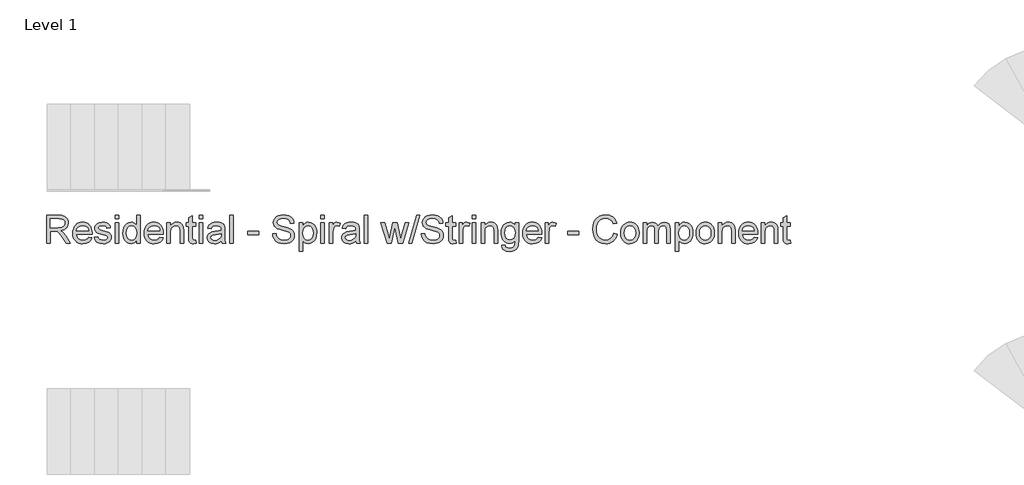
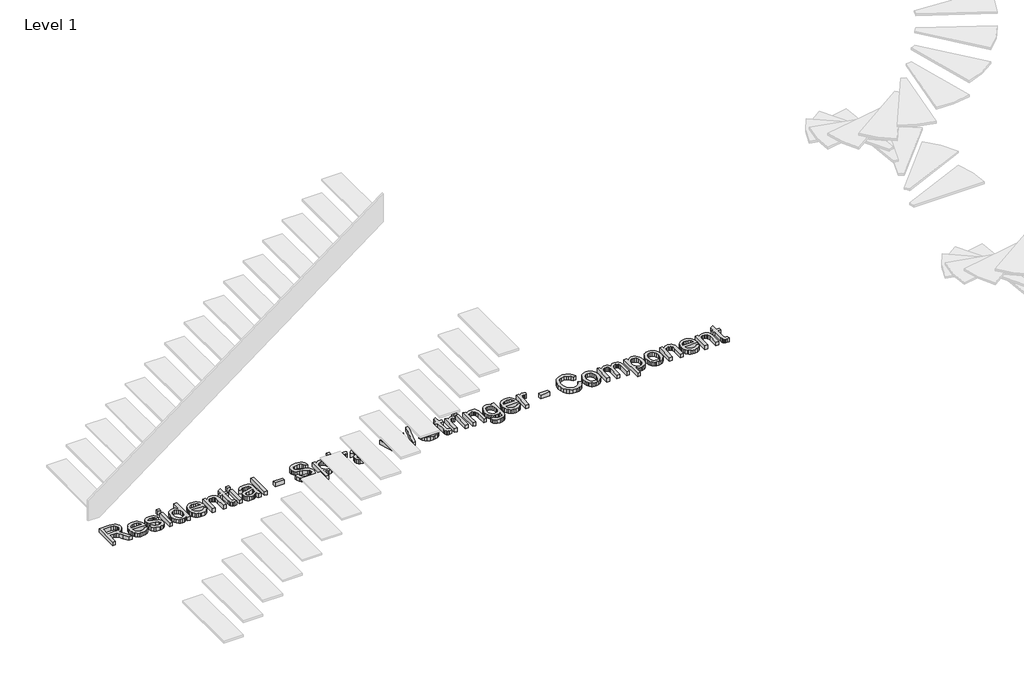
# One storey, part 4 of 15: 1 proxy.
"""IFC4 building model written with IfcOpenShell, lengths in millimetres."""

from ifc_helpers import new_model, si_unit, origin, origin_with_axes, place, context, project, spatial, polyline, outline, extrude, element, save

model = new_model("IFC4")

# Units and contexts
model_context = context("Model", 3, world=origin())
ifc_project = project(units=[si_unit("LENGTHUNIT", "METRE", prefix="MILLI")], contexts=[model_context])

# Site, building, storey
site = spatial("IfcSite", under=ifc_project)
building = spatial("IfcBuilding", under=site)
storey = spatial("IfcBuildingStorey", under=building, Name="Level 1", Elevation=0.0)

# Proxy
placement = place(None, origin())
element("IfcBuildingElementProxy", 1, Name="12\" Arial", ObjectType="12\" Arial", at=placement, inside=storey, context=model_context, shape_type="SweptSolid", body=[
    extrude(outline(polyline([(-27238.310174, -14907.1232123), (-27238.310174, -14607.012443), (-27108.9899817, -14607.012443), (-27074.2328904, -14609.0365055), (-27048.9458471, -14615.108693), (-27030.4636837, -14626.3188854), (-27016.1212317, -14643.7569623), (-27006.9167846, -14665.380544), (-27003.8486356, -14689.1472507), (-27008.9316885, -14718.7113854), (-27024.1808471, -14743.219943), (-27035.7321993, -14753.2074551), (-27050.0540442, -14761.1892219), (-27087.0092125, -14771.13552), (-27065.6878664, -14787.1814815), (-27035.2811356, -14825.7943661), (-26985.238251, -14907.1232123), (-27028.8334433, -14907.1232123), (-27067.8859433, -14844.9176354), (-27096.0945971, -14803.7403277), (-27115.913924, -14784.2873469), (-27133.7549817, -14777.1435969), (-27155.5159433, -14775.8247507), (-27200.7963279, -14775.8247507), (-27200.7963279, -14907.1232123), (-27238.310174, -14907.1232123)]), holes=[polyline([(-27200.7963279, -14738.3109046), (-27116.8297894, -14738.3109046), (-27092.7150539, -14736.9828998), (-27074.003924, -14732.9988854), (-27059.9179144, -14726.0932604), (-27049.6785394, -14716.0004238), (-27043.4414962, -14703.7919382), (-27041.3624817, -14690.5393661), (-27045.3281789, -14672.2403757), (-27057.2252702, -14657.494943), (-27077.6948615, -14647.7684527), (-27107.3780587, -14644.5262892), (-27200.7963279, -14644.5262892), (-27200.7963279, -14738.3109046)])]), origin_with_axes(), (0.0, 0.0, 1.0), 50.8),
    extrude(outline(polyline([(-26788.5836356, -14841.4739815), (-26751.8024817, -14846.1632123), (-26765.0550539, -14873.8772988), (-26786.2023856, -14894.5941738), (-26814.7682269, -14907.5078757), (-26850.2763279, -14911.812443), (-26873.5530466, -14909.955526), (-26894.2928183, -14904.3847748), (-26912.4956428, -14895.1001894), (-26928.1615202, -14882.10177), (-26940.7592486, -14865.7512832), (-26949.757626, -14846.4104959), (-26955.1566524, -14824.0794082), (-26956.9563279, -14798.75802), (-26955.1383351, -14772.5780079), (-26949.6843567, -14749.5027796), (-26940.5943928, -14729.5323349), (-26927.8684433, -14712.6666738), (-26912.2437798, -14699.2675632), (-26894.457674, -14689.69677), (-26874.510126, -14683.954294), (-26852.4011356, -14682.0401354), (-26831.0042305, -14683.9497147), (-26811.6542846, -14689.6784527), (-26794.3512978, -14699.2263493), (-26779.0952702, -14712.5934046), (-26766.6417906, -14729.422431), (-26757.7464481, -14749.3562411), (-26752.4092426, -14772.3948349), (-26750.630174, -14798.5382123), (-26750.8499817, -14808.6493661), (-26919.4424817, -14808.6493661), (-26912.9489962, -14836.7297988), (-26897.8646933, -14857.3734046), (-26876.0945731, -14870.0672988), (-26849.5436356, -14874.2985969), (-26829.5777702, -14872.338645), (-26812.7624817, -14866.4587892), (-26799.0977702, -14856.2926834), (-26788.5836356, -14841.4739815)]), holes=[polyline([(-26919.4424817, -14771.13552), (-26788.1440202, -14771.13552), (-26793.2179144, -14751.316193), (-26803.1642125, -14737.1385969), (-26825.0350779, -14723.9501354), (-26852.547674, -14719.5539815), (-26877.8347173, -14723.0617459), (-26898.743924, -14733.5850392), (-26913.2787077, -14749.9881882), (-26919.4424817, -14771.13552)])]), origin_with_axes(), (0.0, 0.0, 1.0), 50.8),
    extrude(outline(polyline([(-26727.1840202, -14841.4739815), (-26689.670174, -14836.7847507), (-26683.7536837, -14852.8307123), (-26672.3053664, -14864.6270584), (-26655.2519529, -14871.8807123), (-26632.520174, -14874.2985969), (-26610.0631548, -14872.0822027), (-26594.2736356, -14865.43302), (-26584.9318087, -14855.7981161), (-26581.8178664, -14844.6245584), (-26584.950126, -14835.0629238), (-26594.3469048, -14827.7726354), (-26632.9597894, -14817.0753277), (-26689.4503664, -14798.7213854), (-26703.747025, -14789.4986209), (-26714.1054625, -14777.2901354), (-26720.3974577, -14762.8744142), (-26722.4947894, -14747.029943), (-26720.8095971, -14732.4951594), (-26715.7540202, -14719.0777315), (-26707.7859914, -14707.3088613), (-26697.3634433, -14697.7197507), (-26673.5143087, -14686.6194623), (-26641.2392125, -14682.0401354), (-26616.8222414, -14683.8810248), (-26595.5924817, -14689.403693), (-26578.520751, -14698.0677796), (-26566.5778664, -14709.3329238), (-26558.6647894, -14724.0325632), (-26553.6824817, -14743.0001354), (-26591.1963279, -14747.6893661), (-26595.9313519, -14735.8838613), (-26605.3006548, -14726.9908084), (-26619.3958231, -14721.4131882), (-26638.3084433, -14719.5539815), (-26659.8495971, -14721.3307604), (-26674.2103664, -14726.6610969), (-26682.288299, -14734.3543661), (-26684.9809433, -14743.219943), (-26680.5115202, -14754.1370584), (-26666.5170971, -14762.4164815), (-26634.2053664, -14770.4028277), (-26579.1435394, -14788.0607123), (-26564.5995971, -14796.5049911), (-26553.5725779, -14808.0632123), (-26546.6211596, -14822.7720104), (-26544.3040202, -14840.66802), (-26547.0241404, -14859.1685007), (-26555.184501, -14876.569943), (-26568.4737077, -14891.5077075), (-26586.5803664, -14902.6171546), (-26608.4512317, -14909.5136209), (-26633.0330587, -14911.812443), (-26670.858299, -14907.3796546), (-26698.4624817, -14894.0812892), (-26716.8896933, -14872.0638854), (-26727.1840202, -14841.4739815)])), origin_with_axes(), (0.0, 0.0, 1.0), 50.8),
    extrude(outline(polyline([(-26502.1009433, -14907.1232123), (-26502.1009433, -14686.7293661), (-26464.5870971, -14686.7293661), (-26464.5870971, -14907.1232123), (-26502.1009433, -14907.1232123)])), origin_with_axes(), (0.0, 0.0, 1.0), 50.8),
    extrude(outline(polyline([(-26502.1009433, -14644.5262892), (-26502.1009433, -14607.012443), (-26464.5870971, -14607.012443), (-26464.5870971, -14644.5262892), (-26502.1009433, -14644.5262892)])), origin_with_axes(), (0.0, 0.0, 1.0), 50.8),
    extrude(outline(polyline([(-26272.3286356, -14907.1232123), (-26272.3286356, -14871.7341738), (-26283.5525659, -14889.2684166), (-26297.1485875, -14901.7928757), (-26313.1167005, -14909.3075512), (-26331.4569048, -14911.812443), (-26355.7090202, -14908.1856161), (-26377.9095971, -14897.3051354), (-26396.7031548, -14879.931169), (-26410.7342125, -14856.8238854), (-26419.4715683, -14828.9174671), (-26422.3840202, -14797.1460969), (-26419.7005346, -14765.7685488), (-26411.6500779, -14737.4316738), (-26398.2418087, -14713.747395), (-26379.4848856, -14696.3276354), (-26356.7989, -14685.6120104), (-26331.6034433, -14682.0401354), (-26313.249501, -14684.5953998), (-26297.0203664, -14692.261193), (-26283.2640683, -14704.0117459), (-26272.3286356, -14718.8212892), (-26272.3286356, -14607.012443), (-26234.8147894, -14607.012443), (-26234.8147894, -14907.1232123), (-26272.3286356, -14907.1232123)]), holes=[polyline([(-26384.870174, -14796.9995584), (-26380.638876, -14830.9323709), (-26367.9449817, -14855.0654238), (-26349.4994529, -14869.4903036), (-26328.013251, -14874.2985969), (-26306.5362077, -14869.7101113), (-26288.5577702, -14855.9446546), (-26276.3859192, -14832.7457844), (-26272.3286356, -14799.8570584), (-26276.4591885, -14763.9001834), (-26288.8508471, -14738.9703277), (-26307.2872173, -14724.408068), (-26329.5519048, -14719.5539815), (-26351.2579144, -14724.2157363), (-26369.0440202, -14738.2010007), (-26380.9136356, -14762.2241498), (-26384.870174, -14796.9995584)])]), origin_with_axes(), (0.0, 0.0, 1.0), 50.8),
    extrude(outline(polyline([(-26024.2390202, -14841.4739815), (-25987.4578664, -14846.1632123), (-26000.7104385, -14873.8772988), (-26021.8577702, -14894.5941738), (-26050.4236115, -14907.5078757), (-26085.9317125, -14911.812443), (-26109.2084313, -14909.955526), (-26129.9482029, -14904.3847748), (-26148.1510274, -14895.1001894), (-26163.8169048, -14882.10177), (-26176.4146332, -14865.7512832), (-26185.4130106, -14846.4104959), (-26190.812037, -14824.0794082), (-26192.6117125, -14798.75802), (-26190.7937197, -14772.5780079), (-26185.3397414, -14749.5027796), (-26176.2497774, -14729.5323349), (-26163.5238279, -14712.6666738), (-26147.8991644, -14699.2675632), (-26130.1130587, -14689.69677), (-26110.1655106, -14683.954294), (-26088.0565202, -14682.0401354), (-26066.6596152, -14683.9497147), (-26047.3096692, -14689.6784527), (-26030.0066825, -14699.2263493), (-26014.7506548, -14712.5934046), (-26002.2971753, -14729.422431), (-25993.4018327, -14749.3562411), (-25988.0646272, -14772.3948349), (-25986.2855587, -14798.5382123), (-25986.5053664, -14808.6493661), (-26155.0978664, -14808.6493661), (-26148.6043808, -14836.7297988), (-26133.5200779, -14857.3734046), (-26111.7499577, -14870.0672988), (-26085.1990202, -14874.2985969), (-26065.2331548, -14872.338645), (-26048.4178664, -14866.4587892), (-26034.7531548, -14856.2926834), (-26024.2390202, -14841.4739815)]), holes=[polyline([(-26155.0978664, -14771.13552), (-26023.7994048, -14771.13552), (-26028.873299, -14751.316193), (-26038.8195971, -14737.1385969), (-26060.6904625, -14723.9501354), (-26088.2030587, -14719.5539815), (-26113.4901019, -14723.0617459), (-26134.3993087, -14733.5850392), (-26148.9340923, -14749.9881882), (-26155.0978664, -14771.13552)])]), origin_with_axes(), (0.0, 0.0, 1.0), 50.8),
    extrude(outline(polyline([(-25948.7717125, -14907.1232123), (-25948.7717125, -14686.7293661), (-25911.2578664, -14686.7293661), (-25911.2578664, -14717.502443), (-25898.2251019, -14701.9876834), (-25882.5729625, -14690.9057123), (-25864.3014481, -14684.2565296), (-25843.4105587, -14682.0401354), (-25824.9192365, -14683.8260729), (-25807.9848856, -14689.1838854), (-25793.8622414, -14697.4449911), (-25783.8060394, -14707.9408084), (-25772.5592125, -14735.5266738), (-25770.5809433, -14771.794943), (-25770.5809433, -14907.1232123), (-25808.0947894, -14907.1232123), (-25808.0947894, -14776.85052), (-25812.417674, -14743.6595584), (-25818.398275, -14733.7773709), (-25827.6943087, -14726.1115777), (-25839.6097173, -14721.1933805), (-25853.4484433, -14719.5539815), (-25875.4200539, -14723.2357604), (-25894.149501, -14734.2810969), (-25901.6344108, -14743.2977916), (-25906.980775, -14755.6207604), (-25911.2578664, -14790.18552), (-25911.2578664, -14907.1232123), (-25948.7717125, -14907.1232123)])), origin_with_axes(), (0.0, 0.0, 1.0), 50.8),
    extrude(outline(polyline([(-25639.2824817, -14875.8372507), (-25634.593251, -14908.2222507), (-25662.6553664, -14911.812443), (-25680.6612798, -14910.2554719), (-25694.0878664, -14905.5845584), (-25703.5762317, -14898.3858565), (-25709.7674817, -14889.24552), (-25713.174501, -14873.5475873), (-25714.310174, -14846.6760969), (-25714.310174, -14724.2432123), (-25742.4455587, -14724.2432123), (-25742.4455587, -14686.7293661), (-25714.310174, -14686.7293661), (-25714.310174, -14633.1695584), (-25676.7963279, -14611.11552), (-25676.7963279, -14686.7293661), (-25639.2824817, -14686.7293661), (-25639.2824817, -14724.2432123), (-25676.7963279, -14724.2432123), (-25676.7963279, -14845.5770584), (-25674.8180587, -14864.9201354), (-25668.407001, -14871.7708084), (-25655.6215202, -14874.2985969), (-25639.2824817, -14875.8372507)])), origin_with_axes(), (0.0, 0.0, 1.0), 50.8),
    extrude(outline(polyline([(-25601.7686356, -14907.1232123), (-25601.7686356, -14686.7293661), (-25564.2547894, -14686.7293661), (-25564.2547894, -14907.1232123), (-25601.7686356, -14907.1232123)])), origin_with_axes(), (0.0, 0.0, 1.0), 50.8),
    extrude(outline(polyline([(-25601.7686356, -14644.5262892), (-25601.7686356, -14607.012443), (-25564.2547894, -14607.012443), (-25564.2547894, -14644.5262892), (-25601.7686356, -14644.5262892)])), origin_with_axes(), (0.0, 0.0, 1.0), 50.8),
    extrude(outline(polyline([(-25367.3070971, -14878.9878277), (-25385.2305827, -14894.3560488), (-25403.6852702, -14904.4122507), (-25423.0924577, -14909.962395), (-25443.8734433, -14911.812443), (-25475.2235154, -14907.3613373), (-25498.3491164, -14894.00802), (-25512.6091404, -14873.7307604), (-25517.3624817, -14848.5078277), (-25515.5673856, -14832.9564334), (-25510.1820971, -14818.8337892), (-25501.8751981, -14806.7443661), (-25491.3152702, -14797.2926354), (-25465.048251, -14784.9834046), (-25432.5899817, -14779.3416738), (-25394.2335394, -14773.4068661), (-25367.5269048, -14766.4462892), (-25367.3070971, -14758.0935969), (-25369.8898375, -14741.3515777), (-25377.6380587, -14730.3978277), (-25394.9662317, -14722.264943), (-25419.1084433, -14719.5539815), (-25441.4555587, -14721.3582363), (-25457.0619048, -14726.7710007), (-25467.7042606, -14736.7814094), (-25475.1594048, -14752.3785969), (-25512.673251, -14747.6893661), (-25506.1614481, -14727.1739815), (-25496.4441164, -14711.0547507), (-25482.614549, -14698.7272027), (-25463.7660394, -14689.5868661), (-25440.7137077, -14683.926818), (-25414.272674, -14682.0401354), (-25388.9123615, -14683.7070104), (-25368.8091164, -14688.7076354), (-25353.6515442, -14696.2268902), (-25343.128251, -14705.4496546), (-25336.1493567, -14716.8521786), (-25331.6249817, -14730.9107123), (-25329.793251, -14763.7353277), (-25329.793251, -14810.4078277), (-25327.888251, -14875.5808084), (-25320.4147894, -14907.1232123), (-25357.9286356, -14907.1232123), (-25367.3070971, -14878.9878277)]), holes=[polyline([(-25367.3070971, -14803.9601354), (-25427.8274817, -14815.4634046), (-25460.1025779, -14821.5447507), (-25474.7197894, -14831.4360969), (-25479.8486356, -14845.8701354), (-25477.0552462, -14857.0253757), (-25468.6750779, -14866.1657123), (-25454.8913039, -14872.2653757), (-25435.8870971, -14874.2985969), (-25415.7380587, -14872.0547267), (-25397.9336356, -14865.3231161), (-25383.4995971, -14855.404294), (-25373.4617125, -14843.5987892), (-25369.0106067, -14831.4360969), (-25367.5269048, -14814.5841738), (-25367.3070971, -14803.9601354)])]), origin_with_axes(), (0.0, 0.0, 1.0), 50.8),
    extrude(outline(polyline([(-25278.2117125, -14907.1232123), (-25278.2117125, -14607.012443), (-25240.6978664, -14607.012443), (-25240.6978664, -14907.1232123), (-25278.2117125, -14907.1232123)])), origin_with_axes(), (0.0, 0.0, 1.0), 50.8),
    extrude(outline(polyline([(-25085.953251, -14818.0278277), (-25085.953251, -14780.5139815), (-24968.7224817, -14780.5139815), (-24968.7224817, -14818.0278277), (-25085.953251, -14818.0278277)])), origin_with_axes(), (0.0, 0.0, 1.0), 50.8),
    extrude(outline(polyline([(-24818.6670971, -14803.9601354), (-24781.153251, -14803.9601354), (-24776.8486837, -14824.7777555), (-24769.0638279, -14841.5106161), (-24756.9194529, -14854.7906642), (-24739.5363279, -14865.2498469), (-24718.288251, -14872.0364094), (-24694.5490202, -14874.2985969), (-24673.6489721, -14872.5859286), (-24655.3499817, -14867.4479238), (-24640.5221212, -14859.3150392), (-24630.0354625, -14848.6177315), (-24623.7984192, -14836.3359767), (-24621.7194048, -14823.4497507), (-24623.276376, -14810.8932363), (-24627.9472894, -14800.0402315), (-24637.4356548, -14790.7808325), (-24653.4449817, -14783.0051354), (-24708.0671933, -14768.6810007), (-24743.9233231, -14759.201794), (-24766.865751, -14750.18052), (-24785.5402462, -14737.559895), (-24798.774501, -14722.264943), (-24806.6601019, -14704.6253757), (-24809.2886356, -14684.9709046), (-24806.0373135, -14662.999294), (-24796.2833471, -14642.5113854), (-24780.2831789, -14625.1465777), (-24758.293251, -14612.54427), (-24731.8980106, -14604.8784767), (-24702.6819048, -14602.3232123), (-24671.0295971, -14604.9975392), (-24643.3338279, -14613.02052), (-24620.5837317, -14626.2272988), (-24603.7684433, -14644.45302), (-24593.1260875, -14666.5620104), (-24588.8947894, -14691.4185969), (-24626.4086356, -14691.4185969), (-24633.2959433, -14669.0348469), (-24647.6567125, -14652.8789815), (-24670.0954144, -14643.0975392), (-24701.2165202, -14639.8370584), (-24733.0703183, -14643.0609046), (-24754.9228664, -14652.732443), (-24767.5618087, -14666.9649911), (-24771.7747894, -14683.8718661), (-24768.7890683, -14698.2875873), (-24759.8319048, -14709.882443), (-24738.6570971, -14720.2500392), (-24698.5788279, -14730.837443), (-24657.2183471, -14740.893645), (-24632.1969048, -14749.6676354), (-24610.8114481, -14763.277395), (-24595.892001, -14780.0743661), (-24587.1271692, -14799.8753757), (-24584.2055587, -14822.4972507), (-24587.5667846, -14845.6228517), (-24597.6504625, -14867.3746546), (-24614.0444529, -14886.094943), (-24636.3366164, -14900.1260007), (-24663.1439962, -14908.8908325), (-24693.0836356, -14911.812443), (-24729.8373135, -14908.6618661), (-24760.0883471, -14899.2101354), (-24784.1847654, -14883.4206161), (-24802.4745971, -14861.2566738), (-24814.2159914, -14834.2569623), (-24818.6670971, -14803.9601354)])), origin_with_axes(), (0.0, 0.0, 1.0), 50.8),
    extrude(outline(polyline([(-24532.6240202, -14991.5293661), (-24532.6240202, -14686.7293661), (-24495.110174, -14686.7293661), (-24495.110174, -14723.51052), (-24482.8742125, -14705.3672267), (-24469.1728664, -14692.4077315), (-24453.200174, -14684.6320344), (-24434.150174, -14682.0401354), (-24408.7807029, -14685.6669623), (-24386.5984433, -14696.547443), (-24368.5375779, -14714.0221546), (-24355.5322894, -14737.4316738), (-24347.6741644, -14765.0724911), (-24345.0547894, -14795.2410969), (-24348.0130346, -14827.3238613), (-24356.8877702, -14856.0179238), (-24371.3950779, -14879.8670584), (-24391.2510394, -14897.4150392), (-24414.3766404, -14908.2130921), (-24438.6928664, -14911.812443), (-24455.9386115, -14909.4037171), (-24471.3343087, -14902.1775392), (-24484.5136115, -14891.2695825), (-24495.110174, -14877.81552), (-24495.110174, -14991.5293661), (-24532.6240202, -14991.5293661)]), holes=[polyline([(-24495.110174, -14798.6847507), (-24491.0528904, -14832.3153277), (-24478.8810394, -14855.8347507), (-24460.9209192, -14869.6826354), (-24439.4988279, -14874.2985969), (-24417.7287077, -14869.5177796), (-24399.3106548, -14855.1753277), (-24386.7541404, -14830.7949911), (-24382.5686356, -14795.90052), (-24386.6533952, -14762.4531161), (-24398.907674, -14738.6039815), (-24416.8403183, -14724.3164815), (-24437.960174, -14719.5539815), (-24459.1624577, -14724.6187171), (-24477.782001, -14739.8129238), (-24490.7781308, -14764.6603517), (-24495.110174, -14798.6847507)])]), origin_with_axes(), (0.0, 0.0, 1.0), 50.8),
    extrude(outline(polyline([(-24302.8517125, -14907.1232123), (-24302.8517125, -14686.7293661), (-24265.3378664, -14686.7293661), (-24265.3378664, -14907.1232123), (-24302.8517125, -14907.1232123)])), origin_with_axes(), (0.0, 0.0, 1.0), 50.8),
    extrude(outline(polyline([(-24302.8517125, -14644.5262892), (-24302.8517125, -14607.012443), (-24265.3378664, -14607.012443), (-24265.3378664, -14644.5262892), (-24302.8517125, -14644.5262892)])), origin_with_axes(), (0.0, 0.0, 1.0), 50.8),
    extrude(outline(polyline([(-24209.0670971, -14907.1232123), (-24209.0670971, -14686.7293661), (-24176.2424817, -14686.7293661), (-24176.2424817, -14719.3341738), (-24164.116424, -14700.4307123), (-24152.9428664, -14689.2937892), (-24141.732674, -14683.8535488), (-24129.4967125, -14682.0401354), (-24110.8130587, -14684.93427), (-24091.8363279, -14693.6166738), (-24104.3653664, -14727.2472507), (-24117.5538279, -14721.4772988), (-24130.7422894, -14719.5539815), (-24141.9433231, -14721.4040296), (-24151.9537317, -14726.9541738), (-24160.0408231, -14735.7831161), (-24165.4719048, -14747.4695584), (-24170.0329144, -14768.4245584), (-24171.553251, -14791.2845584), (-24171.553251, -14907.1232123), (-24209.0670971, -14907.1232123)])), origin_with_axes(), (0.0, 0.0, 1.0), 50.8),
    extrude(outline(polyline([(-23927.713251, -14878.9878277), (-23945.6367365, -14894.3560488), (-23964.091424, -14904.4122507), (-23983.4986115, -14909.962395), (-24004.2795971, -14911.812443), (-24035.6296692, -14907.3613373), (-24058.7552702, -14894.00802), (-24073.0152942, -14873.7307604), (-24077.7686356, -14848.5078277), (-24075.9735394, -14832.9564334), (-24070.588251, -14818.8337892), (-24062.2813519, -14806.7443661), (-24051.721424, -14797.2926354), (-24025.4544048, -14784.9834046), (-23992.9961356, -14779.3416738), (-23954.6396933, -14773.4068661), (-23927.9330587, -14766.4462892), (-23927.713251, -14758.0935969), (-23930.2959914, -14741.3515777), (-23938.0442125, -14730.3978277), (-23955.3723856, -14722.264943), (-23979.5145971, -14719.5539815), (-24001.8617125, -14721.3582363), (-24017.4680587, -14726.7710007), (-24028.1104144, -14736.7814094), (-24035.5655587, -14752.3785969), (-24073.0794048, -14747.6893661), (-24066.5676019, -14727.1739815), (-24056.8502702, -14711.0547507), (-24043.0207029, -14698.7272027), (-24024.1721933, -14689.5868661), (-24001.1198615, -14683.926818), (-23974.6788279, -14682.0401354), (-23949.3185154, -14683.7070104), (-23929.2152702, -14688.7076354), (-23914.0576981, -14696.2268902), (-23903.5344048, -14705.4496546), (-23896.5555106, -14716.8521786), (-23892.0311356, -14730.9107123), (-23890.1994048, -14763.7353277), (-23890.1994048, -14810.4078277), (-23888.2944048, -14875.5808084), (-23880.8209433, -14907.1232123), (-23918.3347894, -14907.1232123), (-23927.713251, -14878.9878277)]), holes=[polyline([(-23927.713251, -14803.9601354), (-23988.2336356, -14815.4634046), (-24020.5087317, -14821.5447507), (-24035.1259433, -14831.4360969), (-24040.2547894, -14845.8701354), (-24037.4614, -14857.0253757), (-24029.0812317, -14866.1657123), (-24015.2974577, -14872.2653757), (-23996.293251, -14874.2985969), (-23976.1442125, -14872.0547267), (-23958.3397894, -14865.3231161), (-23943.905751, -14855.404294), (-23933.8678664, -14843.5987892), (-23929.4167606, -14831.4360969), (-23927.9330587, -14814.5841738), (-23927.713251, -14803.9601354)])]), origin_with_axes(), (0.0, 0.0, 1.0), 50.8),
    extrude(outline(polyline([(-23838.6178664, -14907.1232123), (-23838.6178664, -14607.012443), (-23801.1040202, -14607.012443), (-23801.1040202, -14907.1232123), (-23838.6178664, -14907.1232123)])), origin_with_axes(), (0.0, 0.0, 1.0), 50.8),
    extrude(outline(polyline([(-23591.0411356, -14907.1232123), (-23658.0824817, -14686.7293661), (-23619.103251, -14686.7293661), (-23581.0765202, -14815.3168661), (-23569.7197894, -14861.2566738), (-23560.4145971, -14817.0020584), (-23530.1544048, -14686.7293661), (-23485.460174, -14686.7293661), (-23455.3465202, -14816.6357123), (-23447.0670971, -14856.7139815), (-23435.1974817, -14814.4376354), (-23397.0974817, -14686.7293661), (-23357.9717125, -14686.7293661), (-23425.5259433, -14907.1232123), (-23470.8795971, -14907.1232123), (-23499.6744048, -14777.8762892), (-23508.0270971, -14737.5782123), (-23545.1745971, -14907.1232123), (-23591.0411356, -14907.1232123)])), origin_with_axes(), (0.0, 0.0, 1.0), 50.8),
    extrude(outline(polyline([(-23360.3163279, -14907.1232123), (-23275.910174, -14607.012443), (-23242.0597894, -14607.012443), (-23326.4659433, -14907.1232123), (-23360.3163279, -14907.1232123)])), origin_with_axes(), (0.0, 0.0, 1.0), 50.8),
    extrude(outline(polyline([(-23224.3286356, -14803.9601354), (-23186.8147894, -14803.9601354), (-23182.5102221, -14824.7777555), (-23174.7253664, -14841.5106161), (-23162.5809914, -14854.7906642), (-23145.1978664, -14865.2498469), (-23123.9497894, -14872.0364094), (-23100.2105587, -14874.2985969), (-23079.3105106, -14872.5859286), (-23061.0115202, -14867.4479238), (-23046.1836596, -14859.3150392), (-23035.697001, -14848.6177315), (-23029.4599577, -14836.3359767), (-23027.3809433, -14823.4497507), (-23028.9379144, -14810.8932363), (-23033.6088279, -14800.0402315), (-23043.0971933, -14790.7808325), (-23059.1065202, -14783.0051354), (-23113.7287317, -14768.6810007), (-23149.5848615, -14759.201794), (-23172.5272894, -14750.18052), (-23191.2017846, -14737.559895), (-23204.4360394, -14722.264943), (-23212.3216404, -14704.6253757), (-23214.950174, -14684.9709046), (-23211.6988519, -14662.999294), (-23201.9448856, -14642.5113854), (-23185.9447173, -14625.1465777), (-23163.9547894, -14612.54427), (-23137.559549, -14604.8784767), (-23108.3434433, -14602.3232123), (-23076.6911356, -14604.9975392), (-23048.9953664, -14613.02052), (-23026.2452702, -14626.2272988), (-23009.4299817, -14644.45302), (-22998.787626, -14666.5620104), (-22994.5563279, -14691.4185969), (-23032.070174, -14691.4185969), (-23038.9574817, -14669.0348469), (-23053.318251, -14652.8789815), (-23075.7569529, -14643.0975392), (-23106.8780587, -14639.8370584), (-23138.7318567, -14643.0609046), (-23160.5844048, -14652.732443), (-23173.2233471, -14666.9649911), (-23177.4363279, -14683.8718661), (-23174.4506067, -14698.2875873), (-23165.4934433, -14709.882443), (-23144.3186356, -14720.2500392), (-23104.2403664, -14730.837443), (-23062.8798856, -14740.893645), (-23037.8584433, -14749.6676354), (-23016.4729865, -14763.277395), (-23001.5535394, -14780.0743661), (-22992.7887077, -14799.8753757), (-22989.8670971, -14822.4972507), (-22993.2283231, -14845.6228517), (-23003.312001, -14867.3746546), (-23019.7059914, -14886.094943), (-23041.9981548, -14900.1260007), (-23068.8055346, -14908.8908325), (-23098.745174, -14911.812443), (-23135.4988519, -14908.6618661), (-23165.7498856, -14899.2101354), (-23189.8463039, -14883.4206161), (-23208.1361356, -14861.2566738), (-23219.8775298, -14834.2569623), (-23224.3286356, -14803.9601354)])), origin_with_axes(), (0.0, 0.0, 1.0), 50.8),
    extrude(outline(polyline([(-22858.5686356, -14875.8372507), (-22853.8794048, -14908.2222507), (-22881.9415202, -14911.812443), (-22899.9474337, -14910.2554719), (-22913.3740202, -14905.5845584), (-22922.8623856, -14898.3858565), (-22929.0536356, -14889.24552), (-22932.4606548, -14873.5475873), (-22933.5963279, -14846.6760969), (-22933.5963279, -14724.2432123), (-22961.7317125, -14724.2432123), (-22961.7317125, -14686.7293661), (-22933.5963279, -14686.7293661), (-22933.5963279, -14633.1695584), (-22896.0824817, -14611.11552), (-22896.0824817, -14686.7293661), (-22858.5686356, -14686.7293661), (-22858.5686356, -14724.2432123), (-22896.0824817, -14724.2432123), (-22896.0824817, -14845.5770584), (-22894.1042125, -14864.9201354), (-22887.6931548, -14871.7708084), (-22874.907674, -14874.2985969), (-22858.5686356, -14875.8372507)])), origin_with_axes(), (0.0, 0.0, 1.0), 50.8),
    extrude(outline(polyline([(-22821.0547894, -14907.1232123), (-22821.0547894, -14686.7293661), (-22788.230174, -14686.7293661), (-22788.230174, -14719.3341738), (-22776.1041164, -14700.4307123), (-22764.9305587, -14689.2937892), (-22753.7203664, -14683.8535488), (-22741.4844048, -14682.0401354), (-22722.800751, -14684.93427), (-22703.8240202, -14693.6166738), (-22716.3530587, -14727.2472507), (-22729.5415202, -14721.4772988), (-22742.7299817, -14719.5539815), (-22753.9310154, -14721.4040296), (-22763.941424, -14726.9541738), (-22772.0285154, -14735.7831161), (-22777.4595971, -14747.4695584), (-22782.0206067, -14768.4245584), (-22783.5409433, -14791.2845584), (-22783.5409433, -14907.1232123), (-22821.0547894, -14907.1232123)])), origin_with_axes(), (0.0, 0.0, 1.0), 50.8),
    extrude(outline(polyline([(-22680.3778664, -14907.1232123), (-22680.3778664, -14686.7293661), (-22642.8640202, -14686.7293661), (-22642.8640202, -14907.1232123), (-22680.3778664, -14907.1232123)])), origin_with_axes(), (0.0, 0.0, 1.0), 50.8),
    extrude(outline(polyline([(-22680.3778664, -14644.5262892), (-22680.3778664, -14607.012443), (-22642.8640202, -14607.012443), (-22642.8640202, -14644.5262892), (-22680.3778664, -14644.5262892)])), origin_with_axes(), (0.0, 0.0, 1.0), 50.8),
    extrude(outline(polyline([(-22586.593251, -14907.1232123), (-22586.593251, -14686.7293661), (-22549.0794048, -14686.7293661), (-22549.0794048, -14717.502443), (-22536.0466404, -14701.9876834), (-22520.394501, -14690.9057123), (-22502.1229865, -14684.2565296), (-22481.2320971, -14682.0401354), (-22462.740775, -14683.8260729), (-22445.806424, -14689.1838854), (-22431.6837798, -14697.4449911), (-22421.6275779, -14707.9408084), (-22410.380751, -14735.5266738), (-22408.4024817, -14771.794943), (-22408.4024817, -14907.1232123), (-22445.9163279, -14907.1232123), (-22445.9163279, -14776.85052), (-22450.2392125, -14743.6595584), (-22456.2198135, -14733.7773709), (-22465.5158471, -14726.1115777), (-22477.4312558, -14721.1933805), (-22491.2699817, -14719.5539815), (-22513.2415923, -14723.2357604), (-22531.9710394, -14734.2810969), (-22539.4559493, -14743.2977916), (-22544.8023135, -14755.6207604), (-22549.0794048, -14790.18552), (-22549.0794048, -14907.1232123), (-22586.593251, -14907.1232123)])), origin_with_axes(), (0.0, 0.0, 1.0), 50.8),
    extrude(outline(polyline([(-22366.1994048, -14925.8801354), (-22328.6855587, -14930.5693661), (-22324.5458471, -14942.292443), (-22316.5228664, -14950.3520584), (-22300.7516644, -14956.6165777), (-22280.1080587, -14958.7047507), (-22258.0906548, -14956.341818), (-22241.7149817, -14949.25302), (-22230.358251, -14937.8962892), (-22223.397674, -14922.7295584), (-22220.833251, -14878.9878277), (-22233.3164962, -14891.2970584), (-22247.2468087, -14900.0893661), (-22262.6241885, -14905.3647507), (-22279.4486356, -14907.1232123), (-22300.0166825, -14905.0762531), (-22318.1256308, -14898.9353757), (-22333.7754805, -14888.7005801), (-22346.9662317, -14874.3718661), (-22357.4322834, -14857.1810729), (-22364.9080346, -14838.3600392), (-22369.3934853, -14817.9087652), (-22370.8886356, -14795.8272507), (-22368.20515, -14765.5395825), (-22360.1546933, -14737.6881161), (-22347.0211837, -14714.0862652), (-22329.0885394, -14696.547443), (-22306.9703904, -14685.6669623), (-22281.2803664, -14682.0401354), (-22263.7369649, -14684.0916738), (-22247.8146452, -14690.2462892), (-22233.5134072, -14700.5039815), (-22220.833251, -14714.8647507), (-22220.833251, -14686.7293661), (-22183.3194048, -14686.7293661), (-22183.3194048, -14877.0095584), (-22185.8838279, -14920.9436209), (-22193.5770971, -14949.8758084), (-22206.8296692, -14969.0631882), (-22226.072001, -14983.7628277), (-22250.8827942, -14993.1046546), (-22280.840751, -14996.2185969), (-22315.7443808, -14991.8316017), (-22343.229501, -14978.6706161), (-22353.5810695, -14968.7907183), (-22360.8599096, -14956.6990055), (-22365.0660214, -14942.3954779), (-22366.1994048, -14925.8801354)]), holes=[polyline([(-22333.3747894, -14793.2628277), (-22329.3724577, -14827.6718902), (-22317.3654625, -14851.328693), (-22299.3137558, -14865.0391979), (-22277.1772894, -14869.6093661), (-22255.2056789, -14865.0666738), (-22237.0623856, -14851.4385969), (-22224.8905346, -14828.0840296), (-22220.833251, -14794.3618661), (-22225.0095971, -14761.8394863), (-22237.5386356, -14738.4208084), (-22255.9475298, -14724.2706882), (-22277.7634433, -14719.5539815), (-22299.1855346, -14724.197419), (-22317.1456548, -14738.1277315), (-22329.3175058, -14761.1983805), (-22333.3747894, -14793.2628277)])]), origin_with_axes(), (0.0, 0.0, 1.0), 50.8),
    extrude(outline(polyline([(-21972.7436356, -14841.4739815), (-21935.9624817, -14846.1632123), (-21949.2150539, -14873.8772988), (-21970.3623856, -14894.5941738), (-21998.9282269, -14907.5078757), (-22034.4363279, -14911.812443), (-22057.7130466, -14909.955526), (-22078.4528183, -14904.3847748), (-22096.6556428, -14895.1001894), (-22112.3215202, -14882.10177), (-22124.9192486, -14865.7512832), (-22133.917626, -14846.4104959), (-22139.3166524, -14824.0794082), (-22141.1163279, -14798.75802), (-22139.2983351, -14772.5780079), (-22133.8443567, -14749.5027796), (-22124.7543928, -14729.5323349), (-22112.0284433, -14712.6666738), (-22096.4037798, -14699.2675632), (-22078.617674, -14689.69677), (-22058.670126, -14683.954294), (-22036.5611356, -14682.0401354), (-22015.1642305, -14683.9497147), (-21995.8142846, -14689.6784527), (-21978.5112978, -14699.2263493), (-21963.2552702, -14712.5934046), (-21950.8017906, -14729.422431), (-21941.9064481, -14749.3562411), (-21936.5692426, -14772.3948349), (-21934.790174, -14798.5382123), (-21935.0099817, -14808.6493661), (-22103.6024817, -14808.6493661), (-22097.1089962, -14836.7297988), (-22082.0246933, -14857.3734046), (-22060.2545731, -14870.0672988), (-22033.7036356, -14874.2985969), (-22013.7377702, -14872.338645), (-21996.9224817, -14866.4587892), (-21983.2577702, -14856.2926834), (-21972.7436356, -14841.4739815)]), holes=[polyline([(-22103.6024817, -14771.13552), (-21972.3040202, -14771.13552), (-21977.3779144, -14751.316193), (-21987.3242125, -14737.1385969), (-22009.1950779, -14723.9501354), (-22036.707674, -14719.5539815), (-22061.9947173, -14723.0617459), (-22082.903924, -14733.5850392), (-22097.4387077, -14749.9881882), (-22103.6024817, -14771.13552)])]), origin_with_axes(), (0.0, 0.0, 1.0), 50.8),
    extrude(outline(polyline([(-21897.2763279, -14907.1232123), (-21897.2763279, -14686.7293661), (-21864.4517125, -14686.7293661), (-21864.4517125, -14719.3341738), (-21852.3256548, -14700.4307123), (-21841.1520971, -14689.2937892), (-21829.9419048, -14683.8535488), (-21817.7059433, -14682.0401354), (-21799.0222894, -14684.93427), (-21780.0455587, -14693.6166738), (-21792.5745971, -14727.2472507), (-21805.7630587, -14721.4772988), (-21818.9515202, -14719.5539815), (-21830.1525539, -14721.4040296), (-21840.1629625, -14726.9541738), (-21848.2500539, -14735.7831161), (-21853.6811356, -14747.4695584), (-21858.2421452, -14768.4245584), (-21859.7624817, -14791.2845584), (-21859.7624817, -14907.1232123), (-21897.2763279, -14907.1232123)])), origin_with_axes(), (0.0, 0.0, 1.0), 50.8),
    extrude(outline(polyline([(-21658.1255587, -14818.0278277), (-21658.1255587, -14780.5139815), (-21540.8947894, -14780.5139815), (-21540.8947894, -14818.0278277), (-21658.1255587, -14818.0278277)])), origin_with_axes(), (0.0, 0.0, 1.0), 50.8),
    extrude(outline(polyline([(-21165.7563279, -14800.4432123), (-21128.2424817, -14810.1147507), (-21135.6655707, -14833.4441317), (-21145.5523375, -14853.8290055), (-21157.9027822, -14871.2693721), (-21172.7169048, -14885.7652315), (-21189.6604144, -14897.1608866), (-21208.3990202, -14905.3006402), (-21228.9327221, -14910.1844923), (-21251.2615202, -14911.812443), (-21294.7742846, -14906.8850873), (-21329.3298856, -14892.10302), (-21355.8167125, -14867.9791257), (-21375.1231548, -14835.0262892), (-21386.9103423, -14796.2851834), (-21390.8394048, -14754.7964815), (-21386.3974577, -14711.0364334), (-21373.0716164, -14673.2478277), (-21351.5579385, -14642.6304479), (-21322.5524817, -14620.3840777), (-21288.1525779, -14606.8384286), (-21250.4555587, -14602.3232123), (-21209.3240442, -14608.1664334), (-21191.4303243, -14615.4704599), (-21175.3179625, -14625.6960969), (-21161.2525599, -14638.5731642), (-21149.4997173, -14653.8314815), (-21132.9317125, -14691.4918661), (-21170.4455587, -14700.4307123), (-21183.4508471, -14673.0738132), (-21201.2186356, -14654.3077315), (-21223.9687317, -14643.4547267), (-21251.9209433, -14639.8370584), (-21284.1410875, -14643.8485488), (-21310.6095971, -14655.88302), (-21330.694525, -14674.6765777), (-21343.763924, -14698.9653277), (-21350.93515, -14726.4229719), (-21353.3255587, -14754.7232123), (-21350.4955346, -14789.3795584), (-21342.0054625, -14819.3466738), (-21327.5347894, -14843.4797267), (-21306.7629625, -14860.6338854), (-21281.8605827, -14870.882419), (-21254.998251, -14874.2985969), (-21223.6848135, -14869.6460007), (-21197.5918087, -14855.6882123), (-21177.8915442, -14832.57177), (-21165.7563279, -14800.4432123)])), origin_with_axes(), (0.0, 0.0, 1.0), 50.8),
    extrude(outline(polyline([(-21090.7286356, -14796.9262892), (-21088.6999938, -14768.3833445), (-21082.6140683, -14743.7877796), (-21072.4708591, -14723.1395945), (-21058.2703664, -14706.4387892), (-21043.9737077, -14695.7643781), (-21028.1933471, -14688.1397988), (-21010.9292846, -14683.5650512), (-20992.1815202, -14682.0401354), (-20971.4852522, -14683.8970524), (-20952.7718327, -14689.4678036), (-20936.0412618, -14698.752389), (-20921.2935394, -14711.7508084), (-20909.2567786, -14728.0234466), (-20900.6590923, -14747.1306882), (-20895.5004805, -14769.0725332), (-20893.7809433, -14793.8489815), (-20896.8216164, -14831.7474911), (-20905.9436356, -14860.5972507), (-20920.8814, -14882.2025152), (-20941.3693087, -14898.3675392), (-20965.7038519, -14908.4512171), (-20992.1815202, -14911.812443), (-21013.1800238, -14909.962395), (-21032.0674577, -14904.4122507), (-21048.8438219, -14895.1620104), (-21063.5091164, -14882.2116738), (-21075.417656, -14865.7810488), (-21083.9237558, -14846.089943), (-21089.0274156, -14823.1383565), (-21090.7286356, -14796.9262892)]), holes=[polyline([(-21053.2147894, -14796.85302), (-21048.8735875, -14830.8041498), (-21035.8499817, -14854.9921546), (-21016.2504625, -14869.4719863), (-20992.1815202, -14874.2985969), (-20968.2224817, -14869.4445104), (-20948.6595971, -14854.8822507), (-20935.6359914, -14830.373693), (-20931.2947894, -14795.6807123), (-20935.6634673, -14762.7187171), (-20948.769501, -14738.8604238), (-20968.3598615, -14724.3805921), (-20992.1815202, -14719.5539815), (-21016.2504625, -14724.3622748), (-21035.8499817, -14738.7871546), (-21048.8735875, -14762.9202075), (-21053.2147894, -14796.85302)])]), origin_with_axes(), (0.0, 0.0, 1.0), 50.8),
    extrude(outline(polyline([(-20851.5778664, -14907.1232123), (-20851.5778664, -14686.7293661), (-20814.0640202, -14686.7293661), (-20814.0640202, -14722.9976354), (-20802.7805587, -14706.338044), (-20788.273251, -14693.2869623), (-20771.0366644, -14684.8518421), (-20751.5653664, -14682.0401354), (-20730.7019529, -14684.906794), (-20713.978251, -14693.50677), (-20701.4858471, -14707.2722267), (-20693.3163279, -14725.6353277), (-20679.6424577, -14706.562431), (-20664.0452702, -14692.9389334), (-20646.5247654, -14684.7648349), (-20627.0809433, -14682.0401354), (-20598.8814481, -14686.573669), (-20578.0271933, -14700.17427), (-20565.1409673, -14723.2082844), (-20560.8455587, -14756.0420584), (-20560.8455587, -14907.1232123), (-20598.3594048, -14907.1232123), (-20598.3594048, -14772.1612892), (-20601.8396933, -14740.838693), (-20606.7304144, -14732.2020825), (-20614.442001, -14725.41552), (-20624.3608231, -14721.0193661), (-20635.873251, -14719.5539815), (-20656.1963039, -14723.3090296), (-20672.7643087, -14734.5741738), (-20683.7821692, -14754.1187411), (-20687.4547894, -14782.7120584), (-20687.4547894, -14907.1232123), (-20724.9686356, -14907.1232123), (-20724.9686356, -14767.984943), (-20727.1392365, -14746.7735007), (-20733.6510394, -14731.6434046), (-20745.1085154, -14722.5763373), (-20762.1161356, -14719.5539815), (-20776.5684914, -14721.5688854), (-20789.885174, -14727.6135969), (-20800.8755587, -14737.5415777), (-20808.3490202, -14751.2062892), (-20812.6352702, -14770.1647027), (-20814.0640202, -14795.9737892), (-20814.0640202, -14907.1232123), (-20851.5778664, -14907.1232123)])), origin_with_axes(), (0.0, 0.0, 1.0), 50.8),
    extrude(outline(polyline([(-20504.5747894, -14991.5293661), (-20504.5747894, -14686.7293661), (-20467.0609433, -14686.7293661), (-20467.0609433, -14723.51052), (-20454.8249817, -14705.3672267), (-20441.1236356, -14692.4077315), (-20425.1509433, -14684.6320344), (-20406.1009433, -14682.0401354), (-20380.7314721, -14685.6669623), (-20358.5492125, -14696.547443), (-20340.4883471, -14714.0221546), (-20327.4830587, -14737.4316738), (-20319.6249337, -14765.0724911), (-20317.0055587, -14795.2410969), (-20319.9638039, -14827.3238613), (-20328.8385394, -14856.0179238), (-20343.3458471, -14879.8670584), (-20363.2018087, -14897.4150392), (-20386.3274096, -14908.2130921), (-20410.6436356, -14911.812443), (-20427.8893808, -14909.4037171), (-20443.2850779, -14902.1775392), (-20456.4643808, -14891.2695825), (-20467.0609433, -14877.81552), (-20467.0609433, -14991.5293661), (-20504.5747894, -14991.5293661)]), holes=[polyline([(-20467.0609433, -14798.6847507), (-20463.0036596, -14832.3153277), (-20450.8318087, -14855.8347507), (-20432.8716885, -14869.6826354), (-20411.4495971, -14874.2985969), (-20389.6794769, -14869.5177796), (-20371.261424, -14855.1753277), (-20358.7049096, -14830.7949911), (-20354.5194048, -14795.90052), (-20358.6041644, -14762.4531161), (-20370.8584433, -14738.6039815), (-20388.7910875, -14724.3164815), (-20409.9109433, -14719.5539815), (-20431.1132269, -14724.6187171), (-20449.7327702, -14739.8129238), (-20462.7289, -14764.6603517), (-20467.0609433, -14798.6847507)])]), origin_with_axes(), (0.0, 0.0, 1.0), 50.8),
    extrude(outline(polyline([(-20284.1809433, -14796.9262892), (-20282.1523015, -14768.3833445), (-20276.066376, -14743.7877796), (-20265.9231668, -14723.1395945), (-20251.722674, -14706.4387892), (-20237.4260154, -14695.7643781), (-20221.6456548, -14688.1397988), (-20204.3815923, -14683.5650512), (-20185.6338279, -14682.0401354), (-20164.9375599, -14683.8970524), (-20146.2241404, -14689.4678036), (-20129.4935695, -14698.752389), (-20114.7458471, -14711.7508084), (-20102.7090863, -14728.0234466), (-20094.1114, -14747.1306882), (-20088.9527882, -14769.0725332), (-20087.233251, -14793.8489815), (-20090.273924, -14831.7474911), (-20099.3959433, -14860.5972507), (-20114.3337077, -14882.2025152), (-20134.8216164, -14898.3675392), (-20159.1561596, -14908.4512171), (-20185.6338279, -14911.812443), (-20206.6323315, -14909.962395), (-20225.5197654, -14904.4122507), (-20242.2961296, -14895.1620104), (-20256.961424, -14882.2116738), (-20268.8699637, -14865.7810488), (-20277.3760635, -14846.089943), (-20282.4797233, -14823.1383565), (-20284.1809433, -14796.9262892)]), holes=[polyline([(-20246.6670971, -14796.85302), (-20242.3258952, -14830.8041498), (-20229.3022894, -14854.9921546), (-20209.7027702, -14869.4719863), (-20185.6338279, -14874.2985969), (-20161.6747894, -14869.4445104), (-20142.1119048, -14854.8822507), (-20129.088299, -14830.373693), (-20124.7470971, -14795.6807123), (-20129.115775, -14762.7187171), (-20142.2218087, -14738.8604238), (-20161.8121692, -14724.3805921), (-20185.6338279, -14719.5539815), (-20209.7027702, -14724.3622748), (-20229.3022894, -14738.7871546), (-20242.3258952, -14762.9202075), (-20246.6670971, -14796.85302)])]), origin_with_axes(), (0.0, 0.0, 1.0), 50.8),
    extrude(outline(polyline([(-20045.030174, -14907.1232123), (-20045.030174, -14686.7293661), (-20007.5163279, -14686.7293661), (-20007.5163279, -14717.502443), (-19994.4835635, -14701.9876834), (-19978.831424, -14690.9057123), (-19960.5599096, -14684.2565296), (-19939.6690202, -14682.0401354), (-19921.1776981, -14683.8260729), (-19904.2433471, -14689.1838854), (-19890.1207029, -14697.4449911), (-19880.064501, -14707.9408084), (-19868.817674, -14735.5266738), (-19866.8394048, -14771.794943), (-19866.8394048, -14907.1232123), (-19904.353251, -14907.1232123), (-19904.353251, -14776.85052), (-19908.6761356, -14743.6595584), (-19914.6567365, -14733.7773709), (-19923.9527702, -14726.1115777), (-19935.8681789, -14721.1933805), (-19949.7069048, -14719.5539815), (-19971.6785154, -14723.2357604), (-19990.4079625, -14734.2810969), (-19997.8928724, -14743.2977916), (-20003.2392365, -14755.6207604), (-20007.5163279, -14790.18552), (-20007.5163279, -14907.1232123), (-20045.030174, -14907.1232123)])), origin_with_axes(), (0.0, 0.0, 1.0), 50.8),
    extrude(outline(polyline([(-19660.9528664, -14841.4739815), (-19624.1717125, -14846.1632123), (-19637.4242846, -14873.8772988), (-19658.5716164, -14894.5941738), (-19687.1374577, -14907.5078757), (-19722.6455587, -14911.812443), (-19745.9222774, -14909.955526), (-19766.662049, -14904.3847748), (-19784.8648736, -14895.1001894), (-19800.530751, -14882.10177), (-19813.1284793, -14865.7512832), (-19822.1268567, -14846.4104959), (-19827.5258832, -14824.0794082), (-19829.3255587, -14798.75802), (-19827.5075659, -14772.5780079), (-19822.0535875, -14749.5027796), (-19812.9636236, -14729.5323349), (-19800.237674, -14712.6666738), (-19784.6130106, -14699.2675632), (-19766.8269048, -14689.69677), (-19746.8793567, -14683.954294), (-19724.7703664, -14682.0401354), (-19703.3734613, -14683.9497147), (-19684.0235154, -14689.6784527), (-19666.7205286, -14699.2263493), (-19651.464501, -14712.5934046), (-19639.0110214, -14729.422431), (-19630.1156789, -14749.3562411), (-19624.7784733, -14772.3948349), (-19622.9994048, -14798.5382123), (-19623.2192125, -14808.6493661), (-19791.8117125, -14808.6493661), (-19785.3182269, -14836.7297988), (-19770.233924, -14857.3734046), (-19748.4638039, -14870.0672988), (-19721.9128664, -14874.2985969), (-19701.947001, -14872.338645), (-19685.1317125, -14866.4587892), (-19671.467001, -14856.2926834), (-19660.9528664, -14841.4739815)]), holes=[polyline([(-19791.8117125, -14771.13552), (-19660.513251, -14771.13552), (-19665.5871452, -14751.316193), (-19675.5334433, -14737.1385969), (-19697.4043087, -14723.9501354), (-19724.9169048, -14719.5539815), (-19750.2039481, -14723.0617459), (-19771.1131548, -14733.5850392), (-19785.6479385, -14749.9881882), (-19791.8117125, -14771.13552)])]), origin_with_axes(), (0.0, 0.0, 1.0), 50.8),
    extrude(outline(polyline([(-19585.4855587, -14907.1232123), (-19585.4855587, -14686.7293661), (-19547.9717125, -14686.7293661), (-19547.9717125, -14717.502443), (-19534.9389481, -14701.9876834), (-19519.2868087, -14690.9057123), (-19501.0152942, -14684.2565296), (-19480.1244048, -14682.0401354), (-19461.6330827, -14683.8260729), (-19444.6987317, -14689.1838854), (-19430.5760875, -14697.4449911), (-19420.5198856, -14707.9408084), (-19409.2730587, -14735.5266738), (-19407.2947894, -14771.794943), (-19407.2947894, -14907.1232123), (-19444.8086356, -14907.1232123), (-19444.8086356, -14776.85052), (-19449.1315202, -14743.6595584), (-19455.1121212, -14733.7773709), (-19464.4081548, -14726.1115777), (-19476.3235635, -14721.1933805), (-19490.1622894, -14719.5539815), (-19512.1339, -14723.2357604), (-19530.8633471, -14734.2810969), (-19538.348257, -14743.2977916), (-19543.6946212, -14755.6207604), (-19547.9717125, -14790.18552), (-19547.9717125, -14907.1232123), (-19585.4855587, -14907.1232123)])), origin_with_axes(), (0.0, 0.0, 1.0), 50.8),
    extrude(outline(polyline([(-19275.9963279, -14875.8372507), (-19271.3070971, -14908.2222507), (-19299.3692125, -14911.812443), (-19317.375126, -14910.2554719), (-19330.8017125, -14905.5845584), (-19340.2900779, -14898.3858565), (-19346.4813279, -14889.24552), (-19349.8883471, -14873.5475873), (-19351.0240202, -14846.6760969), (-19351.0240202, -14724.2432123), (-19379.1594048, -14724.2432123), (-19379.1594048, -14686.7293661), (-19351.0240202, -14686.7293661), (-19351.0240202, -14633.1695584), (-19313.510174, -14611.11552), (-19313.510174, -14686.7293661), (-19275.9963279, -14686.7293661), (-19275.9963279, -14724.2432123), (-19313.510174, -14724.2432123), (-19313.510174, -14845.5770584), (-19311.5319048, -14864.9201354), (-19305.1208471, -14871.7708084), (-19292.3353664, -14874.2985969), (-19275.9963279, -14875.8372507)])), origin_with_axes(), (0.0, 0.0, 1.0), 50.8),
])

save(model, "model.ifc")
